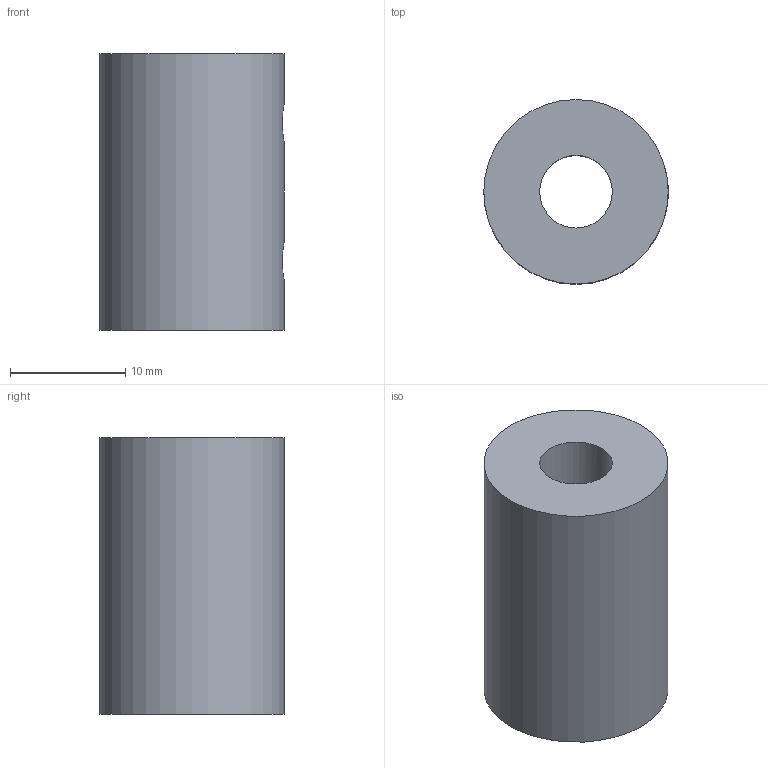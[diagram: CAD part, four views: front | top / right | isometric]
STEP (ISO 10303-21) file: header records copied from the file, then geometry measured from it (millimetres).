
FILE_DESCRIPTION(('Open CASCADE Model'),'2;1');
FILE_NAME('Open CASCADE Shape Model','2026-10-21T17:23:53',('Author'),( 'Open CASCADE'),'Open CASCADE STEP processor 7.9','Open CASCADE 7.9' ,'Unknown');
FILE_SCHEMA(('AUTOMOTIVE_DESIGN { 1 0 10303 214 1 1 1 1 }'));
Length unit declared in the file: millimetre
Products named in the file (1): Open CASCADE STEP translator 7.9 57
Bounding box: 16 x 16 x 24 mm (x, y, z)
Volume: 3726.8 mm3; surface area: 2154.3 mm2
Topology: 1 solids, 1 shells, 8 faces, 23 edges, 14 vertices
Faces by surface type: cylinder 5, plane 3
Full cylindrical faces by diameter (mm): 3.3 x2, 6.3 x1, 8.3 x1, 16 x1
Entity records: 1482 total; most frequent: CARTESIAN_POINT 1046, DIRECTION 67, ORIENTED_EDGE 46, PCURVE 46, DEFINITIONAL_REPRESENTATION 46, LINE 33, VECTOR 33, B_SPLINE_CURVE_WITH_KNOTS 24
